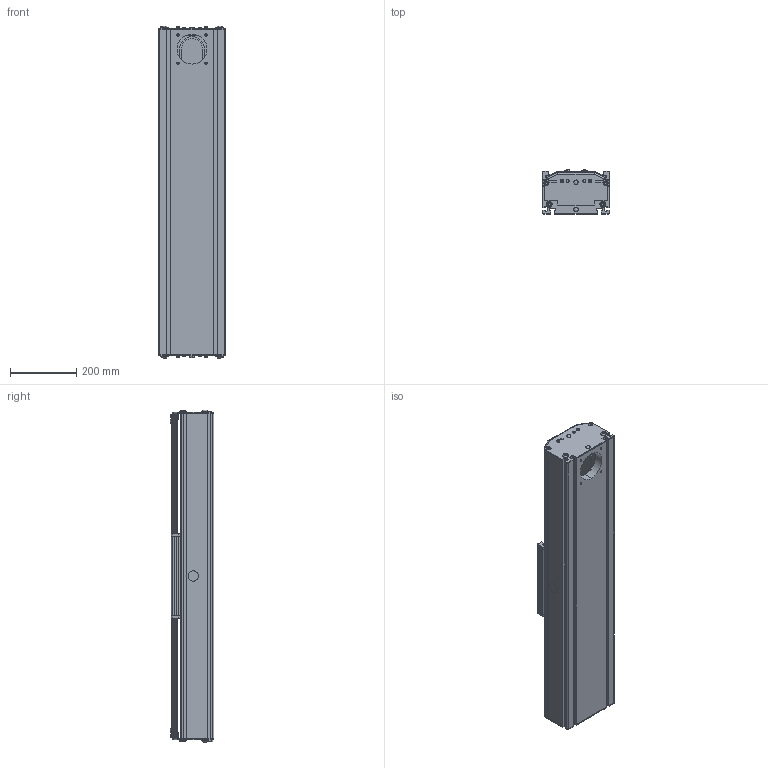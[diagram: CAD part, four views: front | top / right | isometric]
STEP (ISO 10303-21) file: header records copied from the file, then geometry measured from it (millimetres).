
FILE_DESCRIPTION (( 'STEP AP214' ), '1' );
FILE_NAME ('DLZPVI 200.STEP', '2022-07-21T12:47:15', ( '' ), ( '' ), 'SwSTEP 2.0', 'SolidWorks 2020', '' );
FILE_SCHEMA (( 'AUTOMOTIVE_DESIGN' ));
Length unit declared in the file: millimetre
Products named in the file (5): end plate^DLZPVI 200_pos. 1<Wie bearbeitet>; carriage^DLZPVI 200_carriage version 0; end plate^DLZPVI 200_pos. 2<Wie bearbeitet>; DLZPVI 200; profile^DLZPVI 200_standard
Assembly tree (4 placements, depth 2):
  DLZPVI 200
    profile^DLZPVI 200_standard
    carriage^DLZPVI 200_carriage version 0
    end plate^DLZPVI 200_pos. 1<Wie bearbeitet>
    end plate^DLZPVI 200_pos. 2<Wie bearbeitet>
Bounding box: 200 x 132.4 x 1000 mm (x, y, z)
Volume: 9403727.3 mm3; surface area: 2001138.4 mm2
Topology: 22 solids, 22 shells, 700 faces, 1822 edges, 1196 vertices
Faces by surface type: plane 482, cylinder 154, bspline 30, sphere 24, cone 10
Entity records: 26267 total; most frequent: CARTESIAN_POINT 7721, ORIENTED_EDGE 3628, DIRECTION 3338, EDGE_CURVE 1814, VECTOR 1352, LINE 1352, VERTEX_POINT 1196, AXIS2_PLACEMENT_3D 993
